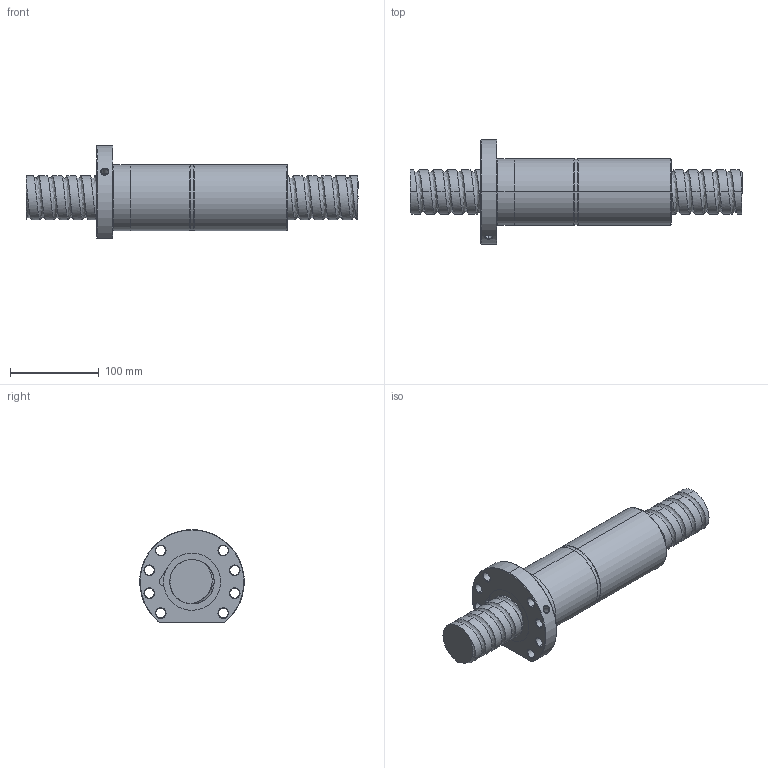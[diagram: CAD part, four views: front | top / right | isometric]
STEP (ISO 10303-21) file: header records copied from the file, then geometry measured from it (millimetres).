
FILE_DESCRIPTION (( 'STEP AP214' ), '1' );
FILE_NAME ('FDDC05016T5-F-B.STEP', '2010-07-07T01:36:16', ( 'XPAUTO' ), ( 'XPAUTO' ), 'SwSTEP 2.0', 'SolidWorks 2007', '' );
FILE_SCHEMA (( 'AUTOMOTIVE_DESIGN' ));
Products named in the file (3): FDDC05016T5-F-B.sldasm-Part-1_預設; FDDC05016T5-F-B.sldasm-Part-2_預設; FDDC05016T5-F-B
Assembly tree (2 placements, depth 2):
  FDDC05016T5-F-B
    FDDC05016T5-F-B.sldasm-Part-2_預設
    FDDC05016T5-F-B.sldasm-Part-1_預設
Bounding box: 375 x 117.69 x 105 mm (x, y, z)
Volume: 1306053 mm3; surface area: 177541.6 mm2
Topology: 2 solids, 2 shells, 159 faces, 398 edges, 248 vertices
Faces by surface type: cylinder 94, cone 32, plane 19, torus 9, bspline 5
Entity records: 46921 total; most frequent: CARTESIAN_POINT 43145, ORIENTED_EDGE 796, DIRECTION 736, EDGE_CURVE 398, AXIS2_PLACEMENT_3D 299, VERTEX_POINT 248, EDGE_LOOP 184, FACE_OUTER_BOUND 159
